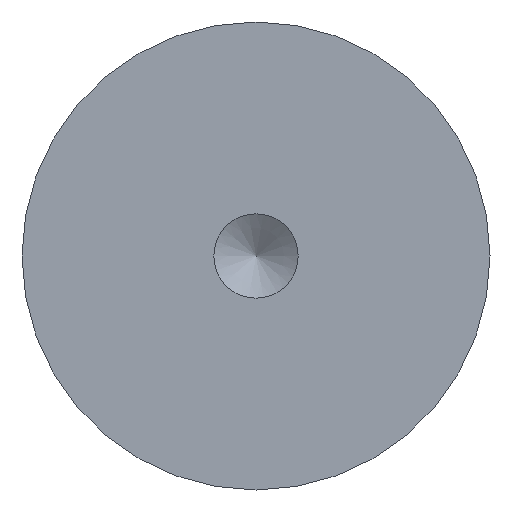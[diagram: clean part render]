
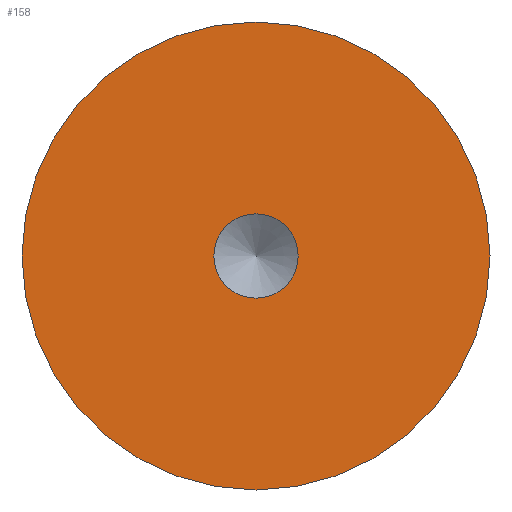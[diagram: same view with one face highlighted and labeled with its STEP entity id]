
A CAD part, front view. The second image highlights one B-rep face of the part: STEP entity #158.
In plain terms, the highlighted planar face has unit normal (0, -1, 0).
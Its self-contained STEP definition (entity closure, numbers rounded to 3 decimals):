
#17=PLANE('',#177);
#23=FACE_BOUND('',#61,.T.);
#44=FACE_OUTER_BOUND('',#60,.T.);
#60=EDGE_LOOP('',(#130));
#61=EDGE_LOOP('',(#131));
#86=CIRCLE('',#176,1.621);
#87=CIRCLE('',#178,9.);
#100=VERTEX_POINT('',#267);
#101=VERTEX_POINT('',#270);
#114=EDGE_CURVE('',#100,#100,#86,.T.);
#115=EDGE_CURVE('',#101,#101,#87,.T.);
#130=ORIENTED_EDGE('',*,*,#115,.F.);
#131=ORIENTED_EDGE('',*,*,#114,.T.);
#158=ADVANCED_FACE('',(#44,#23),#17,.T.);
#176=AXIS2_PLACEMENT_3D('',#268,#210,#211);
#177=AXIS2_PLACEMENT_3D('',#269,#212,#213);
#178=AXIS2_PLACEMENT_3D('',#271,#214,#215);
#210=DIRECTION('center_axis',(0.,1.,0.));
#211=DIRECTION('ref_axis',(1.,0.,0.));
#212=DIRECTION('center_axis',(0.,-1.,0.));
#213=DIRECTION('ref_axis',(0.,0.,-1.));
#214=DIRECTION('center_axis',(0.,1.,0.));
#215=DIRECTION('ref_axis',(1.,0.,0.));
#267=CARTESIAN_POINT('',(1.621,0.,0.));
#268=CARTESIAN_POINT('Origin',(0.,0.,0.));
#269=CARTESIAN_POINT('Origin',(0.,0.,9.));
#270=CARTESIAN_POINT('',(0.,0.,9.));
#271=CARTESIAN_POINT('Origin',(0.,0.,0.));
